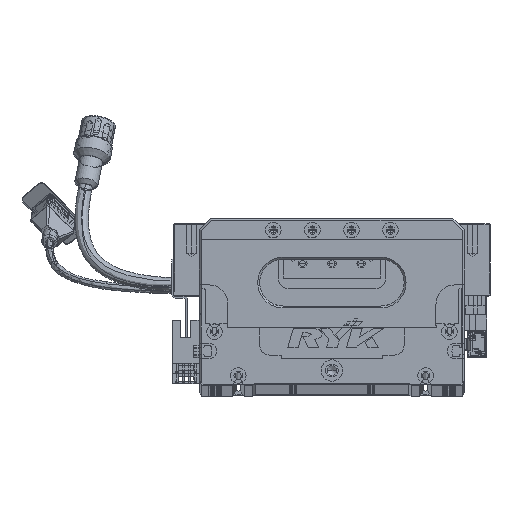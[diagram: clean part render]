
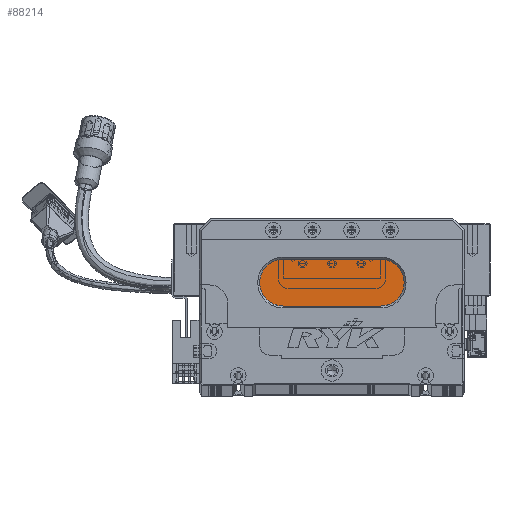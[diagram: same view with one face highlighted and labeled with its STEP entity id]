
A CAD part, top view. The second image highlights one B-rep face of the part: STEP entity #88214.
In plain terms, the highlighted planar face has unit normal (0, 0, 1) as drawn and (0, 0, -1) by its records, which use the part's own axes.
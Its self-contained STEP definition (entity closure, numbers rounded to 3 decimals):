
#6679 = DIRECTION ( 'NONE',  ( -1., 0., 0. ) ) ;
#11597 = AXIS2_PLACEMENT_3D ( 'NONE', #138885, #69418, #150537 ) ;
#17319 = CARTESIAN_POINT ( 'NONE',  ( 93., 52., 13. ) ) ;
#17580 = LINE ( 'NONE', #77965, #110184 ) ;
#20003 = FACE_OUTER_BOUND ( 'NONE', #32968, .T. ) ;
#21793 = LINE ( 'NONE', #91949, #34481 ) ;
#21905 = EDGE_CURVE ( 'NONE', #27469, #115621, #17580, .T. ) ;
#27469 = VERTEX_POINT ( 'NONE', #99573 ) ;
#27984 = DIRECTION ( 'NONE',  ( 0., 0., -1. ) ) ;
#32968 = EDGE_LOOP ( 'NONE', ( #35053, #95018, #140370, #71879, #36964 ) ) ;
#34481 = VECTOR ( 'NONE', #90944, 1000. ) ;
#35053 = ORIENTED_EDGE ( 'NONE', *, *, #64668, .T. ) ;
#36964 = ORIENTED_EDGE ( 'NONE', *, *, #21905, .T. ) ;
#61209 = VERTEX_POINT ( 'NONE', #99382 ) ;
#63161 = CARTESIAN_POINT ( 'NONE',  ( 43., 52., 13. ) ) ;
#64668 = EDGE_CURVE ( 'NONE', #115621, #117169, #66882, .T. ) ;
#66882 = CIRCLE ( 'NONE', #68774, 12. ) ;
#67289 = DIRECTION ( 'NONE',  ( 1., 0., 0. ) ) ;
#68774 = AXIS2_PLACEMENT_3D ( 'NONE', #17319, #27984, #6679 ) ;
#68965 = DIRECTION ( 'NONE',  ( -1., 0., 0. ) ) ;
#69418 = DIRECTION ( 'NONE',  ( 0., 0., -1. ) ) ;
#70364 = CIRCLE ( 'NONE', #128083, 12. ) ;
#71879 = ORIENTED_EDGE ( 'NONE', *, *, #91058, .T. ) ;
#77965 = CARTESIAN_POINT ( 'NONE',  ( 93., 64., 13. ) ) ;
#79539 = CARTESIAN_POINT ( 'NONE',  ( 93., 64., 13. ) ) ;
#86953 = DIRECTION ( 'NONE',  ( 0., 0., -1. ) ) ;
#88214 = ADVANCED_FACE ( 'NONE', ( #20003 ), #102906, .T. ) ;
#90944 = DIRECTION ( 'NONE',  ( -1., 0., 0. ) ) ;
#91058 = EDGE_CURVE ( 'NONE', #106361, #27469, #112037, .T. ) ;
#91949 = CARTESIAN_POINT ( 'NONE',  ( 93., 40., 13. ) ) ;
#93733 = CARTESIAN_POINT ( 'NONE',  ( 43., 52., 13. ) ) ;
#95018 = ORIENTED_EDGE ( 'NONE', *, *, #134360, .T. ) ;
#95374 = CARTESIAN_POINT ( 'NONE',  ( 93., 40., 13. ) ) ;
#99382 = CARTESIAN_POINT ( 'NONE',  ( 43., 40., 13. ) ) ;
#99520 = CARTESIAN_POINT ( 'NONE',  ( 31., 52., 13. ) ) ;
#99573 = CARTESIAN_POINT ( 'NONE',  ( 43., 64., 13. ) ) ;
#102906 = PLANE ( 'NONE',  #11597 ) ;
#106361 = VERTEX_POINT ( 'NONE', #99520 ) ;
#110077 = AXIS2_PLACEMENT_3D ( 'NONE', #63161, #86953, #144272 ) ;
#110184 = VECTOR ( 'NONE', #67289, 1000. ) ;
#112037 = CIRCLE ( 'NONE', #110077, 12. ) ;
#115621 = VERTEX_POINT ( 'NONE', #79539 ) ;
#117169 = VERTEX_POINT ( 'NONE', #95374 ) ;
#126734 = DIRECTION ( 'NONE',  ( 0., 0., -1. ) ) ;
#128083 = AXIS2_PLACEMENT_3D ( 'NONE', #93733, #126734, #68965 ) ;
#128718 = EDGE_CURVE ( 'NONE', #61209, #106361, #70364, .T. ) ;
#134360 = EDGE_CURVE ( 'NONE', #117169, #61209, #21793, .T. ) ;
#138885 = CARTESIAN_POINT ( 'NONE',  ( 93., 52., 13. ) ) ;
#140370 = ORIENTED_EDGE ( 'NONE', *, *, #128718, .T. ) ;
#144272 = DIRECTION ( 'NONE',  ( -1., 0., 0. ) ) ;
#150537 = DIRECTION ( 'NONE',  ( -1., 0., 0. ) ) ;
